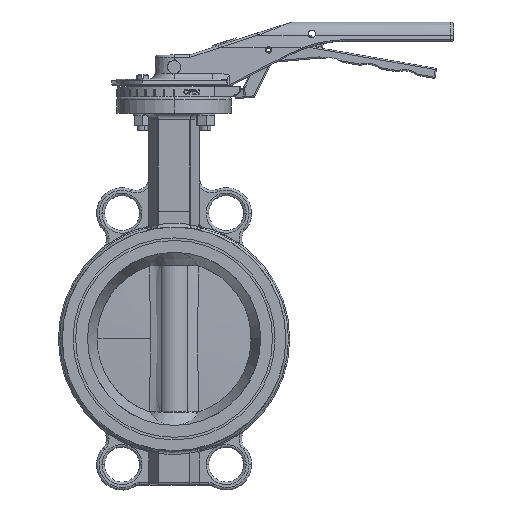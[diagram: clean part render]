
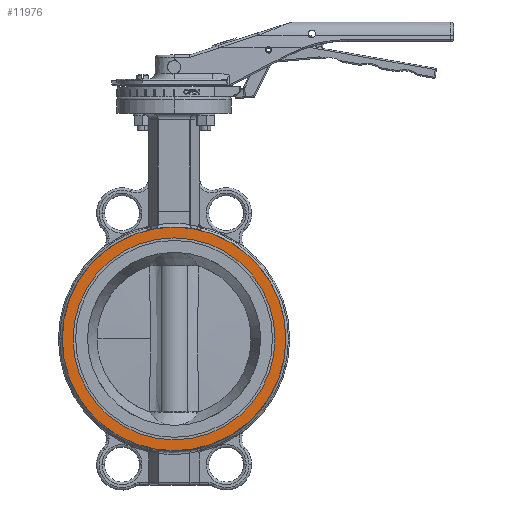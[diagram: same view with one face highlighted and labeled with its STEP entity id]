
A CAD part, top view. The second image highlights one B-rep face of the part: STEP entity #11976.
In plain terms, the highlighted planar face has unit normal (0, 0, 1).
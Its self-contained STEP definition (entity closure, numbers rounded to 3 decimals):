
#2655 = DIRECTION ( 'NONE',  ( 0., 0., 1. ) ) ;
#3779 = AXIS2_PLACEMENT_3D ( 'NONE', #22952, #37936, #38357 ) ;
#4442 = ORIENTED_EDGE ( 'NONE', *, *, #49169, .F. ) ;
#7149 = EDGE_LOOP ( 'NONE', ( #4442, #52716 ) ) ;
#10213 = CIRCLE ( 'NONE', #3779, 88. ) ;
#11921 = AXIS2_PLACEMENT_3D ( 'NONE', #41230, #2655, #26670 ) ;
#11976 = ADVANCED_FACE ( 'NONE', ( #56111, #40062 ), #19180, .T. ) ;
#12373 = CIRCLE ( 'NONE', #25291, 88. ) ;
#12745 = CARTESIAN_POINT ( 'NONE',  ( 0., -88., 27.25 ) ) ;
#13390 = VERTEX_POINT ( 'NONE', #59780 ) ;
#13829 = DIRECTION ( 'NONE',  ( 0., 0., 1. ) ) ;
#14047 = CARTESIAN_POINT ( 'NONE',  ( 0., 0., 27.25 ) ) ;
#14454 = DIRECTION ( 'NONE',  ( 1., 0., 0. ) ) ;
#19180 = PLANE ( 'NONE',  #51618 ) ;
#22829 = DIRECTION ( 'NONE',  ( 0., 0., 1. ) ) ;
#22952 = CARTESIAN_POINT ( 'NONE',  ( 0., 0., 27.25 ) ) ;
#23449 = ORIENTED_EDGE ( 'NONE', *, *, #33920, .T. ) ;
#24795 = EDGE_LOOP ( 'NONE', ( #49259, #23449 ) ) ;
#25291 = AXIS2_PLACEMENT_3D ( 'NONE', #14047, #13829, #43814 ) ;
#26670 = DIRECTION ( 'NONE',  ( 0., 1., 0. ) ) ;
#27294 = CIRCLE ( 'NONE', #56568, 79.5 ) ;
#29476 = EDGE_CURVE ( 'NONE', #40001, #59534, #58706, .T. ) ;
#31169 = VERTEX_POINT ( 'NONE', #12745 ) ;
#32862 = DIRECTION ( 'NONE',  ( 0., 1., 0. ) ) ;
#33283 = CARTESIAN_POINT ( 'NONE',  ( -89.056, -89.056, 27.25 ) ) ;
#33920 = EDGE_CURVE ( 'NONE', #31169, #13390, #12373, .T. ) ;
#34510 = CARTESIAN_POINT ( 'NONE',  ( 0., -79.5, 27.25 ) ) ;
#37936 = DIRECTION ( 'NONE',  ( 0., 0., 1. ) ) ;
#38357 = DIRECTION ( 'NONE',  ( 0., 1., 0. ) ) ;
#40001 = VERTEX_POINT ( 'NONE', #34510 ) ;
#40062 = FACE_OUTER_BOUND ( 'NONE', #24795, .T. ) ;
#41230 = CARTESIAN_POINT ( 'NONE',  ( 0., 0., 27.25 ) ) ;
#41796 = EDGE_CURVE ( 'NONE', #13390, #31169, #10213, .T. ) ;
#43358 = DIRECTION ( 'NONE',  ( 0., 0., 1. ) ) ;
#43814 = DIRECTION ( 'NONE',  ( 0., 1., 0. ) ) ;
#46982 = CARTESIAN_POINT ( 'NONE',  ( 0., 0., 27.25 ) ) ;
#49169 = EDGE_CURVE ( 'NONE', #59534, #40001, #27294, .T. ) ;
#49259 = ORIENTED_EDGE ( 'NONE', *, *, #41796, .T. ) ;
#51618 = AXIS2_PLACEMENT_3D ( 'NONE', #33283, #43358, #14454 ) ;
#52716 = ORIENTED_EDGE ( 'NONE', *, *, #29476, .F. ) ;
#54802 = CARTESIAN_POINT ( 'NONE',  ( 0., 79.5, 27.25 ) ) ;
#56111 = FACE_BOUND ( 'NONE', #7149, .T. ) ;
#56568 = AXIS2_PLACEMENT_3D ( 'NONE', #46982, #22829, #32862 ) ;
#58706 = CIRCLE ( 'NONE', #11921, 79.5 ) ;
#59534 = VERTEX_POINT ( 'NONE', #54802 ) ;
#59780 = CARTESIAN_POINT ( 'NONE',  ( 0., 88., 27.25 ) ) ;
